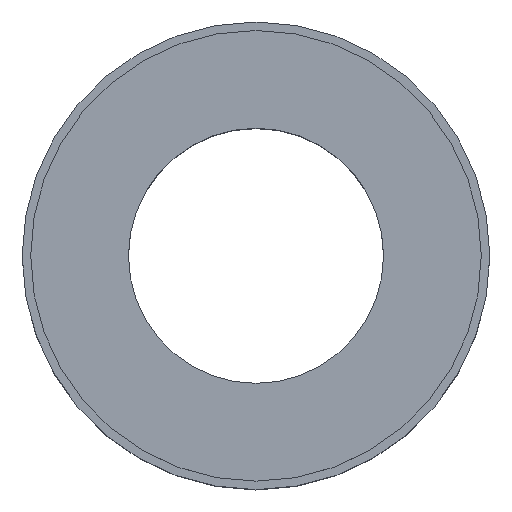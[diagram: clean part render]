
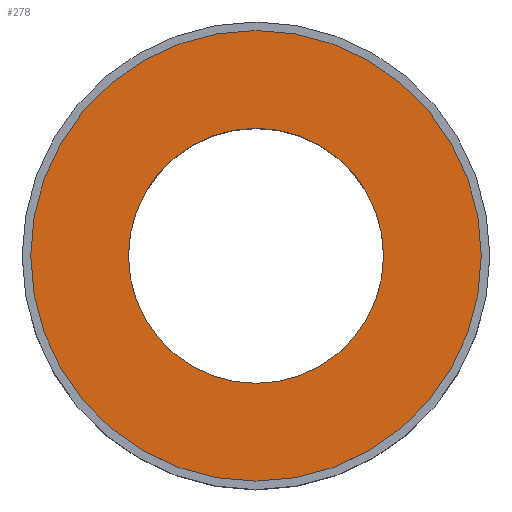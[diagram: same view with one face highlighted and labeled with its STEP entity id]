
A CAD part, top view. The second image highlights one B-rep face of the part: STEP entity #278.
In plain terms, the highlighted planar face has unit normal (0, 0, 1).
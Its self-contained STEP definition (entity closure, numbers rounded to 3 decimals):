
#1 = CARTESIAN_POINT ( 'NONE',  ( 15., 0., 13. ) ) ;
#59 = EDGE_CURVE ( 'NONE', #2256, #353, #1261, .T. ) ;
#135 = DIRECTION ( 'NONE',  ( 0., 0., -1. ) ) ;
#278 = ADVANCED_FACE ( 'NONE', ( #1541, #1442 ), #1619, .T. ) ;
#328 = CARTESIAN_POINT ( 'NONE',  ( 26.5, 0., 13. ) ) ;
#353 = VERTEX_POINT ( 'NONE', #1 ) ;
#384 = CIRCLE ( 'NONE', #811, 15. ) ;
#430 = EDGE_CURVE ( 'NONE', #2409, #1597, #1596, .T. ) ;
#443 = DIRECTION ( 'NONE',  ( 0., 0., 1. ) ) ;
#499 = DIRECTION ( 'NONE',  ( -1., 0., 0. ) ) ;
#523 = ORIENTED_EDGE ( 'NONE', *, *, #1138, .T. ) ;
#811 = AXIS2_PLACEMENT_3D ( 'NONE', #1201, #2195, #1604 ) ;
#911 = CARTESIAN_POINT ( 'NONE',  ( 0., 0., 13. ) ) ;
#1138 = EDGE_CURVE ( 'NONE', #1597, #2409, #1864, .T. ) ;
#1157 = AXIS2_PLACEMENT_3D ( 'NONE', #2386, #2023, #1436 ) ;
#1160 = EDGE_LOOP ( 'NONE', ( #2093, #1783 ) ) ;
#1170 = ORIENTED_EDGE ( 'NONE', *, *, #430, .T. ) ;
#1190 = CARTESIAN_POINT ( 'NONE',  ( 0., 0., 13. ) ) ;
#1201 = CARTESIAN_POINT ( 'NONE',  ( 0., 0., 13. ) ) ;
#1261 = CIRCLE ( 'NONE', #1952, 15. ) ;
#1355 = CARTESIAN_POINT ( 'NONE',  ( -26.5, 0., 13. ) ) ;
#1385 = DIRECTION ( 'NONE',  ( 0., 0., 1. ) ) ;
#1407 = DIRECTION ( 'NONE',  ( 1., 0., 0. ) ) ;
#1412 = CARTESIAN_POINT ( 'NONE',  ( -15., 0., 13. ) ) ;
#1436 = DIRECTION ( 'NONE',  ( 1., 0., 0. ) ) ;
#1442 = FACE_OUTER_BOUND ( 'NONE', #2175, .T. ) ;
#1505 = AXIS2_PLACEMENT_3D ( 'NONE', #2347, #443, #2015 ) ;
#1532 = AXIS2_PLACEMENT_3D ( 'NONE', #1190, #1385, #1407 ) ;
#1541 = FACE_BOUND ( 'NONE', #1160, .T. ) ;
#1596 = CIRCLE ( 'NONE', #1532, 26.5 ) ;
#1597 = VERTEX_POINT ( 'NONE', #1355 ) ;
#1604 = DIRECTION ( 'NONE',  ( -1., 0., 0. ) ) ;
#1619 = PLANE ( 'NONE',  #1157 ) ;
#1783 = ORIENTED_EDGE ( 'NONE', *, *, #2228, .T. ) ;
#1864 = CIRCLE ( 'NONE', #1505, 26.5 ) ;
#1952 = AXIS2_PLACEMENT_3D ( 'NONE', #911, #135, #499 ) ;
#2015 = DIRECTION ( 'NONE',  ( 1., 0., 0. ) ) ;
#2023 = DIRECTION ( 'NONE',  ( 0., 0., 1. ) ) ;
#2093 = ORIENTED_EDGE ( 'NONE', *, *, #59, .T. ) ;
#2175 = EDGE_LOOP ( 'NONE', ( #1170, #523 ) ) ;
#2195 = DIRECTION ( 'NONE',  ( 0., 0., -1. ) ) ;
#2228 = EDGE_CURVE ( 'NONE', #353, #2256, #384, .T. ) ;
#2256 = VERTEX_POINT ( 'NONE', #1412 ) ;
#2347 = CARTESIAN_POINT ( 'NONE',  ( 0., 0., 13. ) ) ;
#2386 = CARTESIAN_POINT ( 'NONE',  ( -15., 0., 13. ) ) ;
#2409 = VERTEX_POINT ( 'NONE', #328 ) ;
